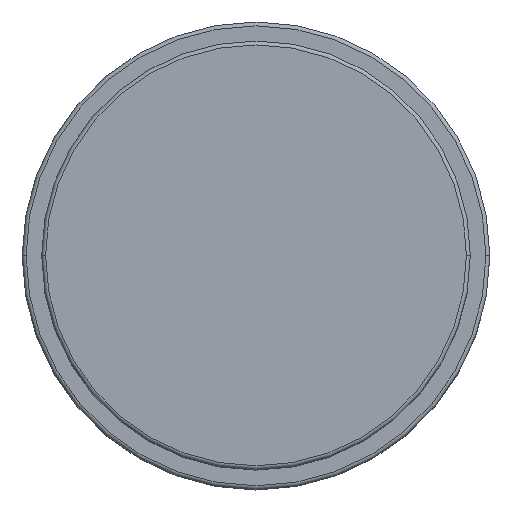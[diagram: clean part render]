
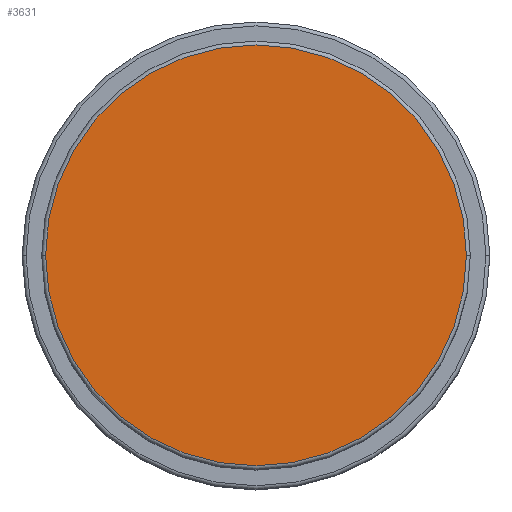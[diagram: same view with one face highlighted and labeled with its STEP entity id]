
A CAD part, top view. The second image highlights one B-rep face of the part: STEP entity #3631.
In plain terms, the highlighted planar face has unit normal (0, 0, 1).
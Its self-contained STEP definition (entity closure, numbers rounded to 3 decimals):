
#3 = AXIS2_PLACEMENT_3D ( 'NONE', #709, #2546, #2529 ) ;
#164 = EDGE_CURVE ( 'NONE', #1388, #2844, #2939, .T. ) ;
#271 = CARTESIAN_POINT ( 'NONE',  ( -27., 0., 61. ) ) ;
#274 = ORIENTED_EDGE ( 'NONE', *, *, #4716, .T. ) ;
#530 = CARTESIAN_POINT ( 'NONE',  ( 0., 0., 61. ) ) ;
#709 = CARTESIAN_POINT ( 'NONE',  ( 0., 0., 61. ) ) ;
#763 = ORIENTED_EDGE ( 'NONE', *, *, #164, .T. ) ;
#1272 = DIRECTION ( 'NONE',  ( 0., 0., 1. ) ) ;
#1388 = VERTEX_POINT ( 'NONE', #4592 ) ;
#2112 = CARTESIAN_POINT ( 'NONE',  ( 0., 0., 61. ) ) ;
#2427 = AXIS2_PLACEMENT_3D ( 'NONE', #530, #1272, #3181 ) ;
#2500 = PLANE ( 'NONE',  #3187 ) ;
#2523 = DIRECTION ( 'NONE',  ( 0., 0., 1. ) ) ;
#2529 = DIRECTION ( 'NONE',  ( 1., 0., 0. ) ) ;
#2546 = DIRECTION ( 'NONE',  ( 0., 0., 1. ) ) ;
#2844 = VERTEX_POINT ( 'NONE', #271 ) ;
#2939 = CIRCLE ( 'NONE', #2427, 27. ) ;
#3181 = DIRECTION ( 'NONE',  ( 1., 0., 0. ) ) ;
#3187 = AXIS2_PLACEMENT_3D ( 'NONE', #2112, #2523, #4771 ) ;
#3343 = FACE_OUTER_BOUND ( 'NONE', #4485, .T. ) ;
#3386 = CIRCLE ( 'NONE', #3, 27. ) ;
#3631 = ADVANCED_FACE ( 'NONE', ( #3343 ), #2500, .T. ) ;
#4485 = EDGE_LOOP ( 'NONE', ( #763, #274 ) ) ;
#4592 = CARTESIAN_POINT ( 'NONE',  ( 27., 0., 61. ) ) ;
#4716 = EDGE_CURVE ( 'NONE', #2844, #1388, #3386, .T. ) ;
#4771 = DIRECTION ( 'NONE',  ( 1., 0., 0. ) ) ;
